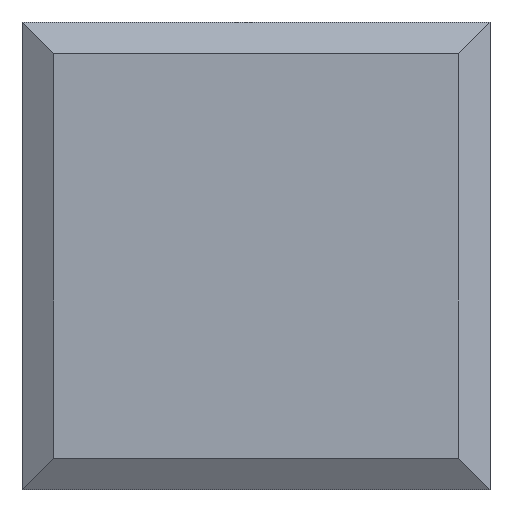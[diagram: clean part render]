
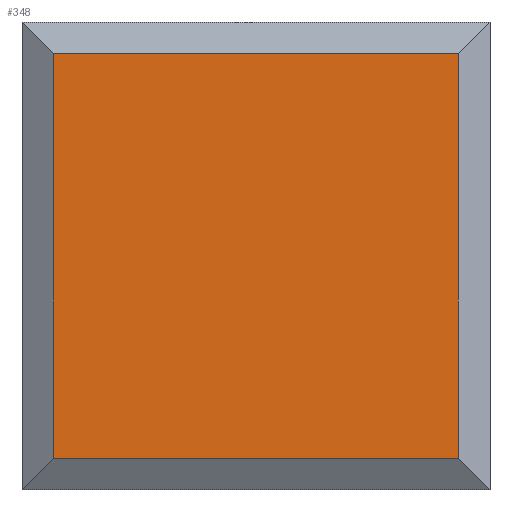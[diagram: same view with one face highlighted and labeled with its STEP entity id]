
A CAD part, top view. The second image highlights one B-rep face of the part: STEP entity #348.
In plain terms, the highlighted planar face has unit normal (0, 0, 1).
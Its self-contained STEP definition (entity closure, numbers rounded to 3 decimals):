
#66=FACE_OUTER_BOUND('',#91,.T.);
#91=EDGE_LOOP('',(#270,#271,#272,#273));
#143=LINE('',#558,#167);
#144=LINE('',#560,#168);
#145=LINE('',#562,#169);
#146=LINE('',#563,#170);
#167=VECTOR('',#448,10.);
#168=VECTOR('',#449,10.);
#169=VECTOR('',#450,10.);
#170=VECTOR('',#451,10.);
#189=VERTEX_POINT('',#556);
#190=VERTEX_POINT('',#557);
#191=VERTEX_POINT('',#559);
#192=VERTEX_POINT('',#561);
#225=EDGE_CURVE('',#189,#190,#143,.T.);
#226=EDGE_CURVE('',#191,#189,#144,.T.);
#227=EDGE_CURVE('',#192,#191,#145,.T.);
#228=EDGE_CURVE('',#190,#192,#146,.T.);
#270=ORIENTED_EDGE('',*,*,#225,.F.);
#271=ORIENTED_EDGE('',*,*,#226,.F.);
#272=ORIENTED_EDGE('',*,*,#227,.F.);
#273=ORIENTED_EDGE('',*,*,#228,.F.);
#332=PLANE('',#381);
#348=ADVANCED_FACE('',(#66),#332,.T.);
#381=AXIS2_PLACEMENT_3D('',#555,#446,#447);
#446=DIRECTION('center_axis',(0.,0.,1.));
#447=DIRECTION('ref_axis',(1.,0.,0.));
#448=DIRECTION('',(1.,0.,0.));
#449=DIRECTION('',(0.,1.,0.));
#450=DIRECTION('',(-1.,0.,0.));
#451=DIRECTION('',(0.,-1.,0.));
#555=CARTESIAN_POINT('Origin',(0.,0.,
35.));
#556=CARTESIAN_POINT('',(-63.5,63.5,35.));
#557=CARTESIAN_POINT('',(63.5,63.5,35.));
#558=CARTESIAN_POINT('',(-63.5,63.5,35.));
#559=CARTESIAN_POINT('',(-63.5,-63.5,35.));
#560=CARTESIAN_POINT('',(-63.5,-63.5,35.));
#561=CARTESIAN_POINT('',(63.5,-63.5,35.));
#562=CARTESIAN_POINT('',(63.5,-63.5,35.));
#563=CARTESIAN_POINT('',(63.5,63.5,35.));
